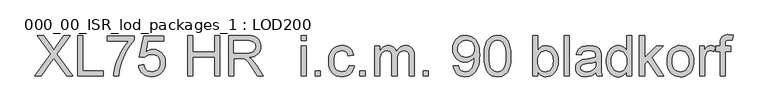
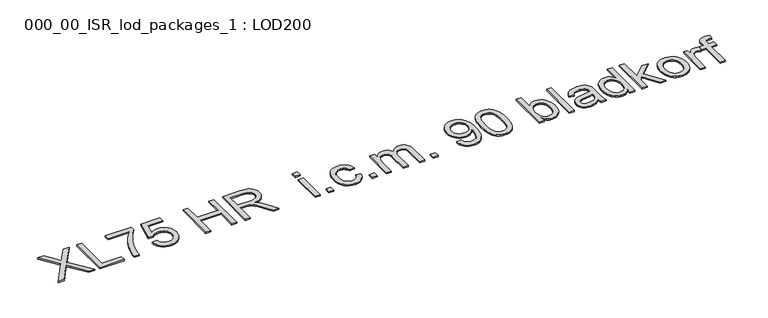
"""IFC4 building model written with IfcOpenShell, lengths in millimetres: proxy geometry, 000_00_ISR_lod_packages_1 : LOD200."""

from ifc_helpers import new_model, si_unit, origin, origin_with_axes, place, context, project, spatial, polyline, outline, extrude, source, transform, mapped, element, save


def proxy_000_00_isr_lod_packages_1_lod200_6f6d0563(model_context):
    return source(origin(), model_context, "Body", "SweptSolid", [
        extrude(outline(polyline([(500.0, 500.0), (808.1627819, 935.6043884), (549.9617936, 1299.3886983), (669.7920331, 1299.3886983), (815.1886591, 1094.6624423), (849.878928, 1042.7978069), (864.1746365, 1014.8406705), (921.5526339, 1096.0285851), (1065.3879539, 1299.3886983), (1186.9746626, 1299.3886983), (928.7736744, 934.4334088), (1236.9364563, 500.0), (1117.1062168, 500.0), (911.7944711, 789.6222725), (869.0537179, 849.7325555), (822.0193731, 783.7673749), (621.5867088, 500.0), (500.0, 500.0)])), origin_with_axes(), (0.0, 0.0, 1.0), 25.0),
        extrude(outline(polyline([(1336.8600436, 500.0), (1336.8600436, 1299.3886983), (1436.7836309, 1299.3886983), (1436.7836309, 599.9235873), (1836.47798, 599.9235873), (1836.47798, 500.0), (1336.8600436, 500.0)])), origin_with_axes(), (0.0, 0.0, 1.0), 25.0),
        extrude(outline(polyline([(1911.4206705, 1186.9746626), (1911.4206705, 1286.8982499), (2436.0195038, 1286.8982499), (2436.0195038, 1206.1006618), (2398.5420597, 1161.9998647), (2361.2475812, 1111.4708778), (2324.1360682, 1054.5137012), (2287.2075208, 991.1283348), (2252.4623623, 924.059262), (2221.9010161, 856.050966), (2195.5234822, 787.1034468), (2173.3297606, 717.2167044), (2149.5198434, 613.3410612), (2136.2487419, 500.0), (2036.3251546, 500.0), (2039.4660633, 549.0713613), (2047.13232, 602.9974086), (2059.3239246, 661.7781419), (2076.0408773, 725.4135612), (2097.0880147, 790.8847349), (2122.2701737, 855.1727313), (2151.5873541, 918.2775505), (2185.039556, 980.1991924), (2221.1203631, 1039.1201993), (2258.3233588, 1093.2231133), (2296.6485433, 1142.5079344), (2336.0959165, 1186.9746626), (1911.4206705, 1186.9746626)])), origin_with_axes(), (0.0, 0.0, 1.0), 25.0),
        extrude(outline(polyline([(2523.4526427, 712.337623), (2623.37623, 724.8280714), (2630.8412245, 692.7054192), (2641.7215761, 664.8397655), (2656.0172846, 641.2311103), (2673.7283501, 621.8794536), (2694.8181795, 606.8091909), (2719.2501797, 596.0447176), (2747.0243506, 589.5860336), (2778.1406923, 587.4331389), (2816.1975273, 590.4276751), (2849.7656074, 599.4112837), (2878.8449326, 614.3839648), (2903.4355029, 635.3457183), (2922.9884217, 661.2597395), (2936.9547922, 691.0892235), (2945.3346146, 724.8341703), (2948.1278887, 762.4945799), (2945.5114813, 798.0874788), (2937.662259, 829.7283217), (2924.580222, 857.4171087), (2906.2653702, 881.1538398), (2882.656715, 900.194455), (2853.693268, 913.7948944), (2819.3750291, 921.9551581), (2779.7019984, 924.675246), (2731.2283246, 920.3328635), (2691.9761146, 907.3057162), (2660.6280165, 887.3502732), (2635.8666784, 862.2230039), (2535.9430911, 874.7134523), (2623.37623, 1286.8982499), (3010.5801307, 1286.8982499), (3010.5801307, 1186.9746626), (2704.1738181, 1186.9746626), (2661.433065, 966.8305094), (2696.6966259, 992.1041511), (2732.814026, 1010.1567523), (2769.7852654, 1020.988313), (2807.610344, 1024.5988333), (2856.2730823, 1020.1222761), (2900.9715668, 1006.6926045), (2941.7057978, 984.3098185), (2978.475775, 952.9739182), (3008.9151442, 914.5999429), (3030.6575507, 871.1029321), (3043.7029947, 822.4828858), (3048.051476, 768.7398041), (3044.1360131, 716.9727503), (3032.3896246, 668.8162168), (3012.8123105, 624.2702035), (2985.4040707, 583.3347105), (2965.5096162, 560.8756889), (2943.8830878, 541.4112035), (2920.5244856, 524.9412543), (2895.4338094, 511.4658413), (2868.6110594, 500.9849646), (2840.0562354, 493.498624), (2777.7503658, 487.5095516), (2726.1845741, 491.3579271), (2679.6076432, 502.9030534), (2638.0195731, 522.1449308), (2601.4203636, 549.083559), (2570.9687968, 582.3771908), (2547.8236543, 620.6840787), (2531.9849363, 664.0042228), (2523.4526427, 712.337623)])), origin_with_axes(), (0.0, 0.0, 1.0), 25.0),
        extrude(outline(polyline([(3485.2171704, 500.0), (3485.2171704, 1299.3886983), (3585.1407577, 1299.3886983), (3585.1407577, 974.6370396), (4009.8160037, 974.6370396), (4009.8160037, 1299.3886983), (4109.739591, 1299.3886983), (4109.739591, 500.0), (4009.8160037, 500.0), (4009.8160037, 874.7134523), (3585.1407577, 874.7134523), (3585.1407577, 500.0), (3485.2171704, 500.0)])), origin_with_axes(), (0.0, 0.0, 1.0), 25.0),
        extrude(outline(polyline([(4284.6058687, 500.0), (4284.6058687, 1299.3886983), (4629.0690163, 1299.3886983), (4721.6495861, 1293.9973134), (4758.4805519, 1287.2580822), (4789.005305, 1277.8231585), (4814.9986112, 1264.966779), (4838.2352364, 1247.9631803), (4858.7151806, 1226.8123624), (4876.4384438, 1201.5143252), (4890.7402512, 1173.4291129), (4900.9558279, 1143.9167692), (4907.085174, 1112.9772942), (4909.1282893, 1080.6106879), (4905.7434266, 1039.5532178), (4895.5888384, 1001.8623139), (4878.6645247, 967.5379762), (4854.9704856, 936.5802046), (4824.2017785, 909.9770132), (4786.0534607, 888.716416), (4740.5255323, 872.7984129), (4687.6179932, 862.2230039), (4720.5517928, 840.7062549), (4744.4105009, 819.4822508), (4785.3459939, 770.9353907), (4825.4032523, 716.6312146), (4958.6997564, 500.0), (4842.5776188, 500.0), (4738.5556032, 665.6936047), (4663.4177494, 775.3753548), (4635.4850084, 807.3577335), (4610.6260886, 827.1911994), (4587.0845208, 838.8278086), (4563.1038356, 846.2196169), (4505.1403485, 849.7325555), (4384.529456, 849.7325555), (4384.529456, 500.0), (4284.6058687, 500.0)]), holes=[polyline([(4384.529456, 949.6561428), (4608.1865479, 949.6561428), (4672.4196546, 953.1934768), (4722.2594713, 963.8054789), (4759.7796073, 982.1996158), (4774.6973987, 994.5802849), (4787.0536724, 1009.0833544), (4803.6669446, 1041.602432), (4809.204702, 1076.902586), (4806.5638992, 1102.4567749), (4798.6414907, 1125.6446093), (4785.4374767, 1146.4660892), (4766.951857, 1164.9212147), (4742.757712, 1180.0341693), (4712.4281222, 1190.829137), (4675.9630875, 1197.3061175), (4633.362608, 1199.465111), (4384.529456, 1199.465111), (4384.529456, 949.6561428)])]), origin_with_axes(), (0.0, 0.0, 1.0), 25.0),
        extrude(outline(polyline([(5696.0265392, 1199.465111), (5696.0265392, 1299.3886983), (5795.9501265, 1299.3886983), (5795.9501265, 1199.465111), (5696.0265392, 1199.465111)])), origin_with_axes(), (0.0, 0.0, 1.0), 25.0),
        extrude(outline(polyline([(5696.0265392, 500.0), (5696.0265392, 1087.0510753), (5795.9501265, 1087.0510753), (5795.9501265, 500.0), (5696.0265392, 500.0)])), origin_with_axes(), (0.0, 0.0, 1.0), 25.0),
        extrude(outline(polyline([(5970.8164043, 500.0), (5970.8164043, 599.9235873), (6070.7399916, 599.9235873), (6070.7399916, 500.0), (5970.8164043, 500.0)])), origin_with_axes(), (0.0, 0.0, 1.0), 25.0),
        extrude(outline(polyline([(6632.8101701, 712.337623), (6732.7337574, 699.8471746), (6721.8656035, 652.6969516), (6704.8742025, 610.9747067), (6681.7595543, 574.6804398), (6652.521659, 543.8141511), (6618.3924845, 519.1808888), (6580.603999, 501.5857015), (6539.1562024, 491.0285891), (6494.0490948, 487.5095516), (6438.0067459, 492.4191273), (6387.7583062, 507.1478543), (6343.3037757, 531.6957326), (6304.6431544, 566.0627623), (6273.349946, 609.602465), (6250.9976543, 661.6683625), (6237.5862793, 722.2604548), (6233.1158209, 791.3787419), (6235.0247615, 837.3213922), (6240.7515833, 880.3000006), (6250.2962863, 920.314567), (6263.6588706, 957.3650914), (6280.9308187, 990.707514), (6302.2036137, 1019.5977748), (6327.4772554, 1044.0358739), (6356.7517439, 1064.0218111), (6388.7036283, 1079.5616854), (6422.0094577, 1090.6615956), (6456.6692323, 1097.3215417), (6492.682952, 1099.5415238), (6537.0155054, 1096.4920979), (6577.1154558, 1087.3438202), (6612.982803, 1072.0966908), (6644.6175471, 1050.7507096), (6671.4829891, 1023.7937849), (6693.0424301, 991.7138246), (6709.2958701, 954.5108288), (6720.243309, 912.1847976), (6620.3197217, 899.6943492), (6612.5192903, 923.0346549), (6602.1939342, 943.2889416), (6589.3436536, 960.4572093), (6573.9684483, 974.539458), (6556.4586449, 985.5112923), (6537.2045698, 993.3483169), (6516.2062232, 998.0505316), (6493.463605, 999.6179365), (6459.5112972, 996.5319175), (6428.8889625, 987.2738605), (6401.5966009, 971.8437655), (6377.6342123, 950.2416326), (6358.1239855, 921.9673558), (6344.1881092, 886.5208294), (6335.8265835, 843.9020532), (6333.0394082, 794.1110274), (6335.765595, 743.5698429), (6343.9441552, 700.4570598), (6357.5750889, 664.7726781), (6376.658396, 636.5166979), (6400.1450742, 615.0426408), (6426.9861208, 599.7040286), (6457.1815359, 590.5008613), (6490.7313194, 587.4331389), (6517.7675293, 589.3481783), (6542.4739778, 595.0932967), (6564.8506649, 604.668494), (6584.8975906, 618.0737701), (6602.0536606, 635.4554977), (6615.7577806, 656.960049), (6626.0099504, 682.5874241), (6632.8101701, 712.337623)])), origin_with_axes(), (0.0, 0.0, 1.0), 25.0),
        extrude(outline(polyline([(6845.1477931, 500.0), (6845.1477931, 599.9235873), (6945.0713804, 599.9235873), (6945.0713804, 500.0), (6845.1477931, 500.0)])), origin_with_axes(), (0.0, 0.0, 1.0), 25.0),
        extrude(outline(polyline([(7132.4281066, 500.0), (7132.4281066, 1087.0510753), (7232.3516938, 1087.0510753), (7232.3516938, 990.4452634), (7262.4068353, 1034.8205088), (7280.6545998, 1053.4037102), (7301.0491601, 1069.5839639), (7323.2611782, 1082.6903963), (7346.9613162, 1092.0521338), (7372.149574, 1097.6691763), (7398.8259516, 1099.5415238), (7427.9906607, 1097.6325832), (7454.3986889, 1091.9057613), (7478.050036, 1082.3610583), (7498.9447021, 1068.9984741), (7517.0216988, 1052.1961375), (7532.2200374, 1032.3321773), (7544.5397179, 1009.4065935), (7553.9807404, 983.4193862), (7590.4030832, 1034.2228214), (7610.5353929, 1054.1813138), (7631.9484614, 1070.5109894), (7654.6422888, 1083.2118482), (7678.6168751, 1092.2838902), (7703.8722202, 1097.7271154), (7730.4083243, 1099.5415238), (7770.410693, 1096.5225921), (7805.5217826, 1087.4657973), (7835.7415931, 1072.3711392), (7861.0701244, 1051.2386178), (7881.0926548, 1023.8242791), (7895.3944622, 989.884169), (7903.9755466, 949.4182876), (7906.8359081, 902.4266348), (7906.8359081, 500.0), (7806.9123208, 500.0), (7806.9123208, 859.4907183), (7804.5947571, 909.330535), (7797.6420661, 942.9230105), (7784.6149187, 965.9278793), (7764.073986, 984.0048759), (7737.6537602, 995.7146713), (7706.9887335, 999.6179365), (7678.6717648, 997.1174072), (7652.8553252, 989.6158196), (7629.5394149, 977.1131735), (7608.7240339, 959.6094689), (7591.604557, 936.5924023), (7579.3763592, 907.5496702), (7572.0394405, 872.4812726), (7569.593801, 831.3872094), (7569.593801, 500.0), (7469.6702137, 500.0), (7469.6702137, 870.615024), (7468.2247858, 900.8897241), (7463.8885022, 927.1147867), (7456.6613629, 949.2902117), (7446.5433678, 967.4159992), (7433.1319928, 981.5043467), (7416.0247136, 991.5674521), (7395.2215302, 997.6053154), (7370.7224427, 999.6179365), (7332.2264903, 994.2509469), (7296.7555685, 978.1499783), (7280.9473447, 966.1718334), (7267.48108, 951.705357), (7256.3567744, 934.7505491), (7247.5744279, 915.3074097), (7236.1573773, 864.8089171), (7232.3516938, 796.06266), (7232.3516938, 500.0), (7132.4281066, 500.0)])), origin_with_axes(), (0.0, 0.0, 1.0), 25.0),
        extrude(outline(polyline([(8081.7021858, 500.0), (8081.7021858, 599.9235873), (8181.6257731, 599.9235873), (8181.6257731, 500.0), (8081.7021858, 500.0)])), origin_with_axes(), (0.0, 0.0, 1.0), 25.0),
        extrude(outline(polyline([(8668.7532612, 699.8471746), (8768.6768485, 712.337623), (8775.8734936, 681.7152883), (8785.7536334, 655.6183016), (8798.317268, 634.0466629), (8813.5643975, 617.0003722), (8831.3242538, 604.0647076), (8851.4260692, 594.8249472), (8873.8698437, 589.281091), (8898.6555773, 587.4331389), (8941.0303993, 592.1902433), (8979.550747, 606.4615564), (9011.5575211, 628.6857722), (9034.3916221, 657.3015847), (9051.6879657, 694.9193024), (9067.0814676, 744.1492338), (9077.9130283, 800.6489965), (9081.5235485, 860.0762081), (9080.9380588, 879.5925338), (9064.965166, 857.3683179), (9046.3209762, 837.3396887), (9025.0054892, 819.5066462), (9001.0187053, 803.8691903), (8975.1778703, 791.1469855), (8948.3002306, 782.0596964), (8920.3857861, 776.6073229), (8891.4345368, 774.7898651), (8843.9671735, 779.2298291), (8800.3176914, 792.5497214), (8760.4860906, 814.7495418), (8724.4723709, 845.8292904), (8694.6306892, 884.1666726), (8673.3152023, 928.1393938), (8660.5259102, 977.747454), (8656.2628128, 1032.9908533), (8660.7332711, 1090.0761058), (8674.1446461, 1141.3064606), (8696.4969379, 1186.6819178), (8727.7901463, 1226.2024772), (8765.816487, 1258.2214489), (8808.3681758, 1281.0921431), (8855.4452125, 1294.8145595), (8907.0475973, 1299.3886983), (8945.1471243, 1296.7783898), (8981.5755658, 1288.9474641), (9016.332922, 1275.8959213), (9049.4191929, 1257.6237615), (9079.7304861, 1234.521311), (9106.1629097, 1206.9788964), (9128.7164635, 1174.9965178), (9147.3911476, 1138.574175), (9162.0344907, 1095.6138632), (9172.4940214, 1044.0175773), (9178.7697399, 983.7853173), (9180.8616461, 914.9170832), (9178.7758388, 842.5908001), (9172.5184168, 778.0344542), (9162.0893803, 721.2480454), (9147.4887292, 672.2315738), (9128.7713531, 629.7896644), (9105.9921418, 592.7269422), (9079.1510952, 561.0434073), (9048.2482133, 534.7390596), (9013.905579, 514.0761499), (8976.7452752, 499.3169286), (8936.7673019, 490.4613958), (8893.9716591, 487.5095516), (8849.0963078, 490.9919959), (8808.5389436, 501.439329), (8772.2995664, 518.8515508), (8740.3781763, 543.2286613), (8713.5798216, 573.9119845), (8692.7095509, 610.2428445), (8677.7673641, 652.2212412), (8668.7532612, 699.8471746)]), holes=[polyline([(9080.9380588, 1035.3328124), (9078.2423663, 1071.1452699), (9070.1552888, 1103.0544624), (9056.6768265, 1131.0603897), (9037.8069791, 1155.1630518), (9014.4727722, 1174.5452027), (8987.6012314, 1188.3895962), (8957.1923565, 1196.6962323), (8923.2461476, 1199.465111), (8888.214343, 1196.4827725), (8856.5003139, 1187.535757), (8828.1040601, 1172.6240644), (8803.0255816, 1151.7476949), (8782.5334397, 1126.1264186), (8767.8961954, 1096.980006), (8759.1138489, 1064.3084571), (8756.1864001, 1028.1117719), (8758.9552788, 995.647584), (8767.2619149, 966.3669966), (8781.1063084, 940.27001), (8800.4884593, 917.3566239), (8824.6033191, 898.7002363), (8852.6458396, 885.3742452), (8884.6160205, 877.3786506), (8920.513862, 874.7134523), (8953.9904593, 877.3786506), (8984.3566422, 885.3742452), (9011.6124108, 898.7002363), (9035.7577649, 917.3566239), (9055.5241435, 940.721325), (9069.6429853, 968.1722568), (9078.1142904, 999.7094192), (9080.9380588, 1035.3328124)])]), origin_with_axes(), (0.0, 0.0, 1.0), 25.0),
        extrude(outline(polyline([(9268.2947849, 893.2539617), (9270.1305393, 960.469407), (9275.6378025, 1021.2078717), (9284.8165744, 1075.4693558), (9297.666855, 1123.2538594), (9314.1337548, 1164.9517089), (9334.162384, 1200.9532309), (9357.7527426, 1231.2584253), (9384.9048307, 1255.8672922), (9415.7101309, 1274.9079074), (9450.2601262, 1288.5083468), (9488.5548164, 1296.6686105), (9530.5942016, 1299.3886983), (9562.1862537, 1297.7786015), (9592.168209, 1292.9483109), (9620.5400674, 1284.8978266), (9647.3018289, 1273.6271485), (9671.8070153, 1259.3253411), (9693.4091483, 1242.1814688), (9712.1082278, 1222.1955316), (9727.9042538, 1199.3675294), (9753.9585486, 1145.5512615), (9774.7434354, 1081.098596), (9782.6841404, 1043.1942323), (9788.3560725, 999.2520054), (9792.8936182, 893.2539617), (9791.0761604, 826.465436), (9785.6237869, 766.0319139), (9776.5364978, 711.9533953), (9763.814293, 664.2298803), (9747.4754691, 622.5137342), (9727.5383227, 586.4573226), (9704.0028538, 556.0606454), (9676.8690623, 531.3237027), (9646.0271689, 512.1550116), (9611.3673943, 498.4630894), (9572.8897386, 490.247936), (9530.5942016, 487.5095516), (9475.5581633, 492.266656), (9426.7673492, 506.5379691), (9384.2217593, 530.323491), (9347.9213936, 563.6232216), (9329.2589072, 591.8700535), (9313.0847523, 623.8188885), (9299.3989289, 659.4697265), (9288.2014371, 698.8225675), (9273.271448, 788.6342586), (9268.2947849, 893.2539617)]), holes=[polyline([(9368.2183722, 893.449125), (9371.1458211, 806.5831793), (9379.9281676, 736.2695173), (9394.5654119, 682.508139), (9404.0796206, 661.8345563), (9415.0575538, 645.2990444), (9439.8432873, 619.9827107), (9467.3613065, 601.8996153), (9497.6116112, 591.049758), (9530.5942016, 587.4331389), (9563.5767919, 591.0619557), (9593.8270967, 601.9484061), (9621.3451158, 620.0924901), (9646.1308494, 645.4942077), (9657.1087826, 662.069362), (9666.6229913, 682.7642908), (9681.2602355, 736.5134714), (9690.0425821, 806.7417494), (9692.9700309, 893.449125), (9690.1401637, 978.0158035), (9681.6505621, 1047.0913986), (9667.501226, 1100.6759102), (9647.6921554, 1138.7693383), (9623.3211438, 1165.3237389), (9595.4859843, 1184.2911679), (9564.1866771, 1195.6716253), (9529.423222, 1199.465111), (9496.6113996, 1196.1229403), (9466.8733984, 1186.096428), (9440.2092184, 1169.3855742), (9416.6188598, 1145.9903788), (9395.4436465, 1104.5181868), (9380.3184941, 1048.6039138), (9371.2434027, 978.2475599), (9368.2183722, 893.449125)])]), origin_with_axes(), (0.0, 0.0, 1.0), 25.0),
        extrude(outline(polyline([(10317.4924515, 500.0), (10217.5688642, 500.0), (10217.5688642, 1299.3886983), (10317.4924515, 1299.3886983), (10317.4924515, 1002.9357118), (10350.3530648, 1045.2007545), (10387.4584789, 1075.3900708), (10407.6029863, 1085.9563315), (10428.8086939, 1093.5036605), (10474.4037097, 1099.5415238), (10525.8780186, 1094.101348), (10574.5224602, 1077.7808207), (10617.5559583, 1051.6045489), (10652.1974363, 1016.5971398), (10679.3495243, 973.100129), (10699.9148525, 921.4550523), (10712.8688136, 863.8087054), (10717.1868007, 802.3078842), (10712.7163423, 731.3416451), (10699.3049673, 668.9137984), (10676.9526756, 615.0243443), (10645.6594672, 569.6732825), (10608.0966392, 533.7266503), (10566.9354886, 508.0504843), (10522.1760155, 492.6447848), (10473.8182199, 487.5095516), (10449.602729, 489.1653898), (10426.7228866, 494.1329046), (10405.1786927, 502.4120959), (10384.9701474, 514.0029636), (10366.0972506, 528.9055079), (10348.5600024, 547.1197287), (10317.4924515, 593.4831998), (10317.4924515, 500.0)]), holes=[polyline([(10317.4924515, 797.6239661), (10319.20013, 752.5900446), (10324.3231655, 714.2892556), (10332.861558, 682.7215988), (10344.8153074, 657.8870745), (10369.0277489, 627.0634776), (10397.167851, 605.0466228), (10429.2356135, 591.8365099), (10465.2310366, 587.4331389), (10495.1154103, 590.677728), (10522.9017789, 600.4114954), (10548.5901425, 616.6344411), (10572.1805012, 639.3465651), (10591.9041878, 668.4868788), (10605.9925353, 703.9943938), (10614.4455439, 745.86911), (10617.2632134, 794.1110274), (10614.5614221, 843.2677727), (10606.4560481, 885.5450131), (10592.9470914, 920.9427487), (10574.0345521, 949.4609796), (10551.2919339, 971.4046482), (10526.2927405, 987.0786972), (10499.036972, 996.4831267), (10469.5246283, 999.6179365), (10439.6402546, 996.3733473), (10411.853886, 986.6395799), (10386.1655224, 970.4166342), (10362.5751637, 947.7045103), (10342.8514771, 918.8569414), (10328.7631296, 884.2276611), (10320.310121, 843.8166693), (10317.4924515, 797.6239661)])]), origin_with_axes(), (0.0, 0.0, 1.0), 25.0),
        extrude(outline(polyline([(10829.6008364, 500.0), (10829.6008364, 1299.3886983), (10929.5244237, 1299.3886983), (10929.5244237, 500.0), (10829.6008364, 500.0)])), origin_with_axes(), (0.0, 0.0, 1.0), 25.0),
        extrude(outline(polyline([(11454.123257, 574.9426905), (11406.3814454, 534.0071974), (11381.9799395, 518.8454519), (11357.2247002, 507.2210405), (11305.5308326, 492.4374238), (11250.177654, 487.5095516), (11205.6865304, 490.4735935), (11166.6721757, 499.3657194), (11133.1345898, 514.1859292), (11105.0737728, 534.9342229), (11082.9166444, 560.2932485), (11067.0901241, 588.9456541), (11057.5942119, 620.8914397), (11054.4289078, 656.1306051), (11059.2104076, 697.5540063), (11073.5549069, 735.171724), (11095.6815411, 767.3736613), (11123.8094455, 792.5497214), (11156.865222, 811.5781389), (11193.7754729, 825.3371485), (11280.2327955, 840.3647192), (11382.4007602, 856.172943), (11453.5377672, 874.7134523), (11454.123257, 896.9620636), (11452.4033808, 921.1867028), (11447.2437522, 941.5568677), (11438.6443712, 958.0725583), (11426.6052378, 970.7337745), (11405.7959556, 983.3705954), (11380.4491277, 992.396896), (11350.564754, 997.8126763), (11316.1428347, 999.6179365), (11256.6180415, 994.8120413), (11233.5887772, 988.8046723), (11215.0482678, 980.3943557), (11199.8133361, 968.9224155), (11186.7008048, 953.7301758), (11175.710674, 934.8176365), (11166.8429435, 912.1847976), (11066.9193562, 924.675246), (11084.2644906, 979.3209578), (11096.138955, 1002.2526404), (11110.1480175, 1022.2568742), (11126.8954645, 1039.7361834), (11146.9850822, 1055.0930921), (11170.4168706, 1068.3276004), (11197.1908299, 1079.4397083), (11258.5940694, 1094.5160699), (11329.0236096, 1099.5415238), (11396.5744917, 1095.1015597), (11450.1224102, 1081.7816674), (11490.4968089, 1061.7530382), (11518.5271316, 1037.1868633), (11537.1164318, 1006.8145815), (11549.1677629, 969.3676317), (11552.8270739, 934.8237353), (11554.0468443, 881.9344928), (11554.0468443, 757.6154985), (11555.3154054, 649.3242866), (11559.1210889, 584.0177819), (11566.6348743, 541.1062609), (11579.0277411, 500.0), (11479.1041538, 500.0), (11463.1007668, 534.7390596), (11454.123257, 574.9426905)]), holes=[polyline([(11454.123257, 774.7898651), (11386.9870968, 758.1521974), (11292.9184072, 744.1492338), (11241.0781672, 736.489076), (11206.9489927, 727.9506835), (11184.5784044, 716.8751687), (11168.013923, 701.6036439), (11157.7678521, 683.3070886), (11154.3524951, 663.1564824), (11156.2126449, 647.6288058), (11161.7930942, 633.4428766), (11171.0938432, 620.5986948), (11184.1148917, 609.0962603), (11200.7342628, 599.6186447), (11220.8299793, 592.8489192), (11271.4504489, 587.4331389), (11325.1203445, 593.4100136), (11349.6133331, 600.881107), (11372.5450158, 611.3406378), (11410.9921773, 637.7608636), (11437.7295434, 669.2065433), (11449.5857113, 701.6036439), (11453.5377672, 746.4911929), (11454.123257, 774.7898651)])]), origin_with_axes(), (0.0, 0.0, 1.0), 25.0),
        extrude(outline(polyline([(12053.6647807, 500.0), (12053.6647807, 594.2638529), (12023.7682094, 547.5588461), (12006.4505198, 529.2104505), (11987.5532276, 514.1981269), (11967.0763328, 502.5218752), (11945.0198354, 494.1816954), (11921.3837354, 489.1775875), (11896.1680328, 487.5095516), (11863.1854424, 489.9246969), (11831.5689949, 497.1701328), (11801.3186902, 509.2458593), (11772.4345282, 526.1518764), (11745.8191391, 547.3819794), (11722.3751529, 572.4299635), (11702.1025697, 601.2958289), (11685.0013893, 633.9795755), (11671.4253453, 669.8591205), (11661.728171, 708.3123808), (11655.9098664, 749.3393566), (11653.9704316, 792.9400479), (11655.7573951, 835.7417896), (11661.1182858, 876.5187125), (11670.0531037, 915.2708166), (11682.5618486, 951.9981019), (11698.6384219, 985.6271705), (11718.2767245, 1015.0846245), (11741.4767567, 1040.3704639), (11768.2385182, 1061.4846888), (11797.6166871, 1078.1345541), (11828.6659415, 1090.027315), (11861.3862812, 1097.1629716), (11895.7777063, 1099.5415238), (11920.9293709, 1097.8399441), (11944.666102, 1092.7352052), (11966.9878995, 1084.227307), (11987.8947633, 1072.3162495), (12024.5366647, 1041.0169422), (12053.6647807, 1001.569569), (12053.6647807, 1299.3886983), (12153.588368, 1299.3886983), (12153.588368, 500.0), (12053.6647807, 500.0)]), holes=[polyline([(11753.8940188, 793.3303744), (11756.7116884, 744.8749972), (11765.1646969, 702.9453913), (11779.2530445, 667.5415568), (11798.9767311, 638.6634937), (11822.5304966, 616.2502135), (11848.1090809, 600.2407276), (11875.712484, 590.6350361), (11905.3407058, 587.4331389), (11935.1092013, 590.4886636), (11962.5479354, 599.6552378), (11987.6569081, 614.9328615), (12010.4361194, 636.3215346), (12029.3486587, 663.9920251), (12042.8576154, 698.1151007), (12050.9629894, 738.6907615), (12053.6647807, 785.7190074), (12050.9141986, 837.2787002), (12042.6624521, 881.4953755), (12028.9095414, 918.3690333), (12009.6554664, 947.8996735), (11986.3761492, 970.5264136), (11960.547512, 986.6883707), (11932.1695547, 996.385545), (11901.2422775, 999.6179365), (11871.0285658, 996.5136209), (11843.4251627, 987.2006743), (11818.4320682, 971.6790965), (11796.0492822, 949.9488877), (11777.6063545, 921.5343373), (11764.4328347, 885.959735), (11756.5287228, 843.2250807), (11753.8940188, 793.3303744)])]), origin_with_axes(), (0.0, 0.0, 1.0), 25.0),
        extrude(outline(polyline([(12303.473749, 500.0), (12303.473749, 1299.3886983), (12403.3973362, 1299.3886983), (12403.3973362, 869.8343709), (12627.4447546, 1087.0510753), (12765.6203402, 1087.0510753), (12538.8406362, 867.1020853), (12778.1107886, 500.0), (12661.4031613, 500.0), (12467.2157211, 797.6239661), (12403.3973362, 735.7572138), (12403.3973362, 500.0), (12303.473749, 500.0)])), origin_with_axes(), (0.0, 0.0, 1.0), 25.0),
        extrude(outline(polyline([(12840.5630307, 793.5255377), (12845.9666133, 869.5538238), (12852.7210916, 903.6250591), (12862.1773613, 935.0676894), (12874.3354223, 963.8817146), (12889.1952746, 990.0671346), (12906.7569183, 1013.6239495), (12927.0203533, 1034.5521594), (12965.1015837, 1062.9850063), (13007.13487, 1083.2941827), (13053.1202123, 1095.4796885), (13103.0576106, 1099.5415238), (13158.1851316, 1094.595355), (13208.0310471, 1079.7568486), (13252.5953569, 1055.0260047), (13291.8780612, 1020.4028233), (13323.9397249, 977.0582838), (13346.8409132, 926.1633658), (13360.5816263, 867.7180694), (13365.1618639, 801.7223944), (13363.1370452, 748.2354645), (13357.0625888, 700.7742001), (13346.9384949, 659.3386012), (13332.7647634, 623.9286678), (13314.718261, 593.3429262), (13292.9758545, 566.3799026), (13267.5375438, 543.0395969), (13238.4033289, 523.3220091), (13206.7075963, 507.654059), (13173.5847323, 496.462666), (13139.0347371, 489.7478302), (13103.0576106, 487.5095516), (13047.125041, 492.4374238), (12996.8156128, 507.2210405), (12952.129326, 531.8604016), (12913.0661804, 566.3555072), (12881.3460524, 610.1208674), (12858.6888181, 662.5709926), (12845.0944775, 723.7058827), (12840.5630307, 793.5255377)]), holes=[polyline([(12940.4866179, 793.7207009), (12943.3774737, 745.253126), (12952.0500409, 703.286927), (12966.5043196, 667.822104), (12986.7403097, 638.858657), (13011.3552754, 616.3599928), (13038.9464808, 600.2895184), (13069.5139259, 590.6472338), (13103.0576106, 587.4331389), (13136.4305274, 590.6655303), (13166.8759954, 600.3627046), (13194.3940146, 616.5246618), (13218.9845849, 639.1514018), (13239.220575, 668.4014949), (13253.6748537, 704.4335111), (13262.3474209, 747.2474505), (13265.2382766, 796.843313), (13262.3291244, 843.7739774), (13253.6016675, 884.642383), (13239.055906, 919.44853), (13218.69184, 948.1924184), (13194.0097869, 970.6910825), (13166.5100643, 986.7615569), (13136.1926722, 996.4038416), (13103.0576106, 999.6179365), (13069.5139259, 996.4160393), (13038.9464808, 986.8103478), (13011.3552754, 970.8008619), (12986.7403097, 948.3875817), (12966.5043196, 919.5095186), (12952.0500409, 884.1056841), (12943.3774737, 842.1760782), (12940.4866179, 793.7207009)])]), origin_with_axes(), (0.0, 0.0, 1.0), 25.0),
        extrude(outline(polyline([(13477.5758996, 500.0), (13477.5758996, 1087.0510753), (13565.0090385, 1087.0510753), (13565.0090385, 1000.2034262), (13597.3085575, 1050.5555464), (13612.5068961, 1067.973867), (13627.0709541, 1080.2203614), (13656.9309323, 1094.7112332), (13689.5231961, 1099.5415238), (13714.3089297, 1097.6142866), (13739.2898265, 1091.8325751), (13764.4658866, 1082.1963893), (13789.8371099, 1068.7057292), (13756.4641931, 979.1257945), (13721.3348069, 994.494901), (13686.2054208, 999.6179365), (13656.3698379, 994.6900642), (13629.705658, 979.9064476), (13608.1645136, 956.3892752), (13593.6980372, 925.2607358), (13581.5491245, 869.4440444), (13577.4994869, 808.5531084), (13577.4994869, 500.0), (13477.5758996, 500.0)])), origin_with_axes(), (0.0, 0.0, 1.0), 25.0),
        extrude(outline(polyline([(13877.2702488, 500.0), (13877.2702488, 987.1274881), (13789.8371099, 987.1274881), (13789.8371099, 1087.0510753), (13877.2702488, 1087.0510753), (13877.2702488, 1146.185542), (13879.9049528, 1195.1227286), (13887.8090647, 1229.5202525), (13896.4938296, 1246.9995617), (13907.9108801, 1262.7467969), (13938.9418378, 1289.0450458), (13958.9216762, 1299.0349649), (13982.3656624, 1306.1706215), (14009.2737964, 1310.4520154), (14039.6460782, 1311.8791468), (14083.0211119, 1309.1468612), (14130.7873189, 1300.9500044), (14116.1500747, 1207.2716413), (14058.576914, 1211.9555595), (14020.5932653, 1207.8083403), (14006.4866211, 1202.6243163), (13995.6367638, 1195.3666827), (13987.567983, 1185.2791818), (13981.804568, 1171.6055562), (13977.1938361, 1133.4999304), (13977.1938361, 1087.0510753), (14089.6078718, 1087.0510753), (14089.6078718, 987.1274881), (13977.1938361, 987.1274881), (13977.1938361, 500.0), (13877.2702488, 500.0)])), origin_with_axes(), (0.0, 0.0, 1.0), 25.0),
    ])


if __name__ == "__main__":
    model = new_model("IFC4")
    model_context = context("Model", 3, world=origin())
    ifc_project = project(units=[si_unit("LENGTHUNIT", "METRE", prefix="MILLI")], contexts=[model_context])
    site = spatial("IfcSite", under=ifc_project)
    building = spatial("IfcBuilding", under=site)
    placement = place(None, origin())
    proxy_000_00_isr_lod_packages_1_lod200_shape = proxy_000_00_isr_lod_packages_1_lod200_6f6d0563(model_context)
    element("IfcBuildingElementProxy", 1, Name="000_00_ISR_lod_packages_1 : LOD200", ObjectType="000_00_ISR_lod_packages_1 : LOD200", at=placement, inside=building, context=model_context, shape_type="MappedRepresentation", body=[
        mapped(proxy_000_00_isr_lod_packages_1_lod200_shape, transform((0.0, 0.0, 0.0), x_axis=(1.0, 0.0, 0.0), y_axis=(0.0, 1.0, 0.0), z_axis=(0.0, 0.0, 1.0))),
    ])
    save(model, "model.ifc")
